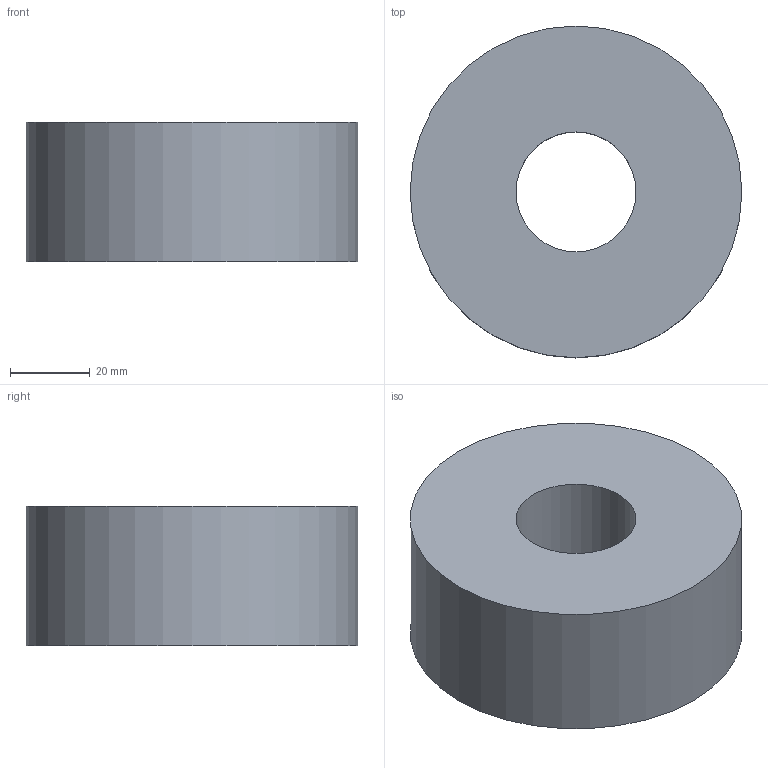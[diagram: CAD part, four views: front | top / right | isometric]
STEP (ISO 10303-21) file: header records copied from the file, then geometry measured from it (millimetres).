
FILE_DESCRIPTION(('FreeCAD Model'),'2;1');
FILE_NAME('Open CASCADE Shape Model','2024-12-13T16:03:22',('Author'),( ''),'Open CASCADE STEP processor 7.8','FreeCAD','Unknown');
FILE_SCHEMA(('AUTOMOTIVE_DESIGN { 1 0 10303 214 1 1 1 1 }'));
Length unit declared in the file: millimetre
Products named in the file (1): Body
Bounding box: 83 x 83 x 35 mm (x, y, z)
Volume: 164631.2 mm3; surface area: 21832.5 mm2
Topology: 1 solids, 1 shells, 4 faces, 6 edges, 4 vertices
Faces by surface type: cylinder 2, plane 2
Full cylindrical faces by diameter (mm): 30 x1, 83 x1
Entity records: 198 total; most frequent: DIRECTION 32, CARTESIAN_POINT 27, ORIENTED_EDGE 12, PCURVE 12, DEFINITIONAL_REPRESENTATION 12, LINE 10, VECTOR 10, AXIS2_PLACEMENT_3D 9
